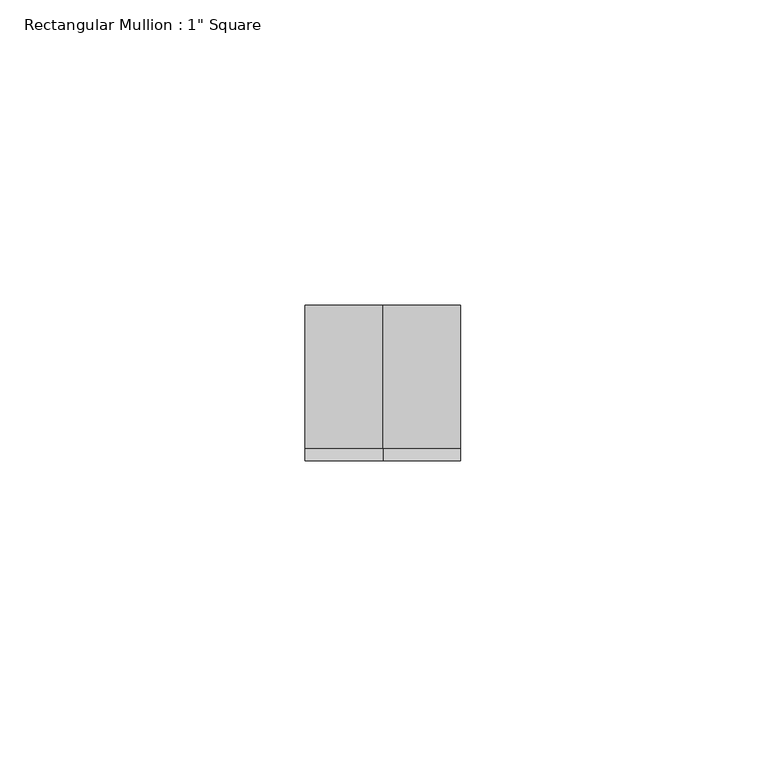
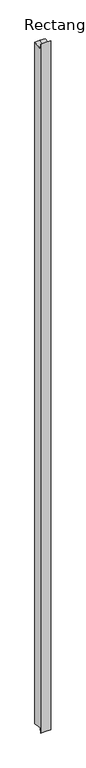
"""IFC4 building model written with IfcOpenShell, lengths in millimetres: member geometry."""

from ifc_helpers import new_model, si_unit, origin, place, context, project, spatial, faceted_brep, source, transform, mapped, element, save


def member_b8b9b78f(model_context):
    return source(origin(), model_context, "Body", "Brep", [
        faceted_brep([(-12.7, 12.7, 1.782567), (0.0, 12.7, 1.782567), (12.7, 12.7, 1.782567), (12.7, 12.7, -1806.382567), (0.0, 12.7, -1806.382567), (-12.7, 12.7, -1806.382567), (-12.7, -12.7, 11.7414453), (-12.7, -10.6498724, -1.7623724), (-12.7, -10.6498724, -1802.8376276), (-12.7, -12.7, -1816.3414453), (12.7, -12.7, 11.7414453), (0.0, -12.7, 11.7414453), (0.0, -12.7, -1816.3414453), (12.7, -12.7, -1816.3414453), (12.7, -10.6498724, -1.7623724), (12.7, -10.6498724, -1802.8376276), (0.0, -10.6498724, -1.7623724), (0.0, -10.6498724, -1802.8376276)], [[[0, 1, 2, 3, 4, 5]], [[6, 7, 0, 5, 8, 9]], [[10, 11, 6, 9, 12, 13]], [[2, 14, 10, 13, 15, 3]], [[2, 1, 16, 14]], [[1, 0, 7, 16]], [[7, 6, 11, 16]], [[11, 10, 14, 16]], [[3, 15, 17, 4]], [[15, 13, 12, 17]], [[12, 9, 8, 17]], [[8, 5, 4, 17]]]),
    ])


if __name__ == "__main__":
    model = new_model("IFC4")
    model_context = context("Model", 3, world=origin())
    ifc_project = project(units=[si_unit("LENGTHUNIT", "METRE", prefix="MILLI")], contexts=[model_context])
    site = spatial("IfcSite", under=ifc_project)
    building = spatial("IfcBuilding", under=site)
    placement = place(None, origin())
    member_shape = member_b8b9b78f(model_context)
    element("IfcMember", 1, ObjectType="Rectangular Mullion : 1\" Square", at=placement, inside=building, context=model_context, shape_type="MappedRepresentation", body=[
        mapped(member_shape, transform((0.0, 0.0, 0.0), x_axis=(1.0, 0.0, 0.0), y_axis=(0.0, 1.0, 0.0), z_axis=(0.0, 0.0, 1.0))),
    ])
    save(model, "model.ifc")
